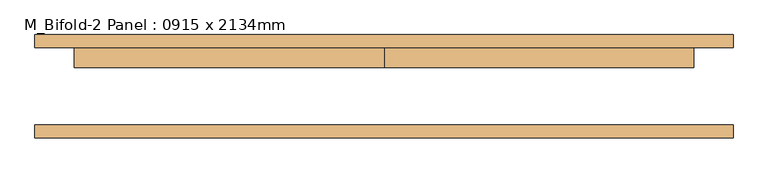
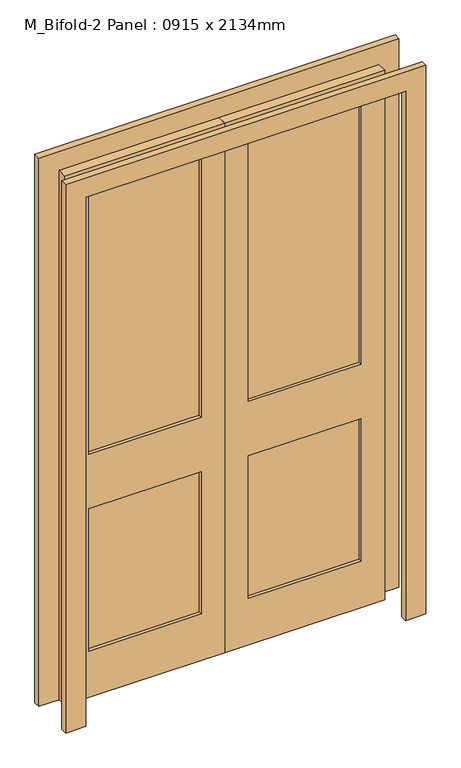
"""IFC4 building model written with IfcOpenShell, lengths in millimetres: door geometry, M_Bifold-2 Panel : 0915 x 2134mm."""

from ifc_helpers import new_model, si_unit, frame, origin, place, context, project, spatial, polyline, outline, extrude, source, transform, mapped, element, save


def m_bifold_2_panel_0915_x_2134mm_83518002(model_context):
    return source(origin(), model_context, "Body", "SweptSolid", [
        extrude(outline(polyline([(2100.0, 0.0), (2100.0, -600.0), (0.0, -600.0), (0.0, 0.0), (2100.0, 0.0)]), holes=[polyline([(2011.1, -88.9), (965.11872, -88.9), (965.11872, -511.1), (2011.1, -511.1), (2011.1, -88.9)]), polyline([(749.3, -88.9), (184.15, -88.9), (184.15, -511.1), (749.3, -511.1), (749.3, -88.9)])]), frame((0.0, 36.9, 0.0), z_axis=(0.0, 1.0, 0.0), x_axis=(0.0, 0.0, 1.0)), (0.0, 0.0, 1.0), 38.1),
        extrude(outline(polyline([(-88.9, 49.6), (-511.1, 49.6), (-511.1, 62.3), (-88.9, 62.3), (-88.9, 49.6)])), frame((0.0, 0.0, 965.11872), z_axis=(0.0, 0.0, 1.0), x_axis=(1.0, 0.0, 0.0)), (0.0, 0.0, 1.0), 1045.98128),
        extrude(outline(polyline([(-88.9, 49.6), (-511.1, 49.6), (-511.1, 62.3), (-88.9, 62.3), (-88.9, 49.6)])), frame((0.0, 0.0, 184.15), z_axis=(0.0, 0.0, 1.0), x_axis=(1.0, 0.0, 0.0)), (0.0, 0.0, 1.0), 565.15),
        extrude(outline(polyline([(511.1, 49.6), (88.9, 49.6), (88.9, 62.3), (511.1, 62.3), (511.1, 49.6)])), frame((0.0, 0.0, 965.11872), z_axis=(0.0, 0.0, 1.0), x_axis=(1.0, 0.0, 0.0)), (0.0, 0.0, 1.0), 1045.98128),
        extrude(outline(polyline([(511.1, 49.6), (88.9, 49.6), (88.9, 62.3), (511.1, 62.3), (511.1, 49.6)])), frame((0.0, 0.0, 184.15), z_axis=(0.0, 0.0, 1.0), x_axis=(1.0, 0.0, 0.0)), (0.0, 0.0, 1.0), 565.15),
        extrude(outline(polyline([(2176.0, -676.0), (0.0, -676.0), (0.0, -600.0), (2100.0, -600.0), (2100.0, 600.0), (0.0, 600.0), (0.0, 676.0), (2176.0, 676.0), (2176.0, -676.0)])), frame((0.0, 75.0, 0.0), z_axis=(0.0, 1.0, 0.0), x_axis=(0.0, 0.0, 1.0)), (0.0, 0.0, 1.0), 25.0),
        extrude(outline(polyline([(2176.0, 676.0), (2176.0, -676.0), (0.0, -676.0), (0.0, -600.0), (2100.0, -600.0), (2100.0, 600.0), (0.0, 600.0), (0.0, 676.0), (2176.0, 676.0)])), frame((0.0, -100.0, 0.0), z_axis=(0.0, 1.0, 0.0), x_axis=(0.0, 0.0, 1.0)), (0.0, 0.0, 1.0), 25.0),
        extrude(outline(polyline([(2100.0, 600.0), (2100.0, 0.0), (0.0, 0.0), (0.0, 600.0), (2100.0, 600.0)]), holes=[polyline([(2011.1, 88.9), (2011.1, 511.1), (965.11872, 511.1), (965.11872, 88.9), (2011.1, 88.9)]), polyline([(749.3, 88.9), (749.3, 511.1), (184.15, 511.1), (184.15, 88.9), (749.3, 88.9)])]), frame((0.0, 36.9, 0.0), z_axis=(0.0, 1.0, 0.0), x_axis=(0.0, 0.0, 1.0)), (0.0, 0.0, 1.0), 38.1),
    ])


if __name__ == "__main__":
    model = new_model("IFC4")
    model_context = context("Model", 3, world=origin())
    ifc_project = project(units=[si_unit("LENGTHUNIT", "METRE", prefix="MILLI")], contexts=[model_context])
    site = spatial("IfcSite", under=ifc_project)
    building = spatial("IfcBuilding", under=site)
    placement = place(None, origin())
    m_bifold_2_panel_0915_x_2134mm_shape = m_bifold_2_panel_0915_x_2134mm_83518002(model_context)
    element("IfcDoor", 1, ObjectType="M_Bifold-2 Panel : 0915 x 2134mm", at=placement, inside=building, context=model_context, shape_type="MappedRepresentation", body=[
        mapped(m_bifold_2_panel_0915_x_2134mm_shape, transform((0.0, 0.0, 0.0), x_axis=(1.0, 0.0, 0.0), y_axis=(0.0, 1.0, 0.0), z_axis=(0.0, 0.0, 1.0))),
    ])
    save(model, "model.ifc")
